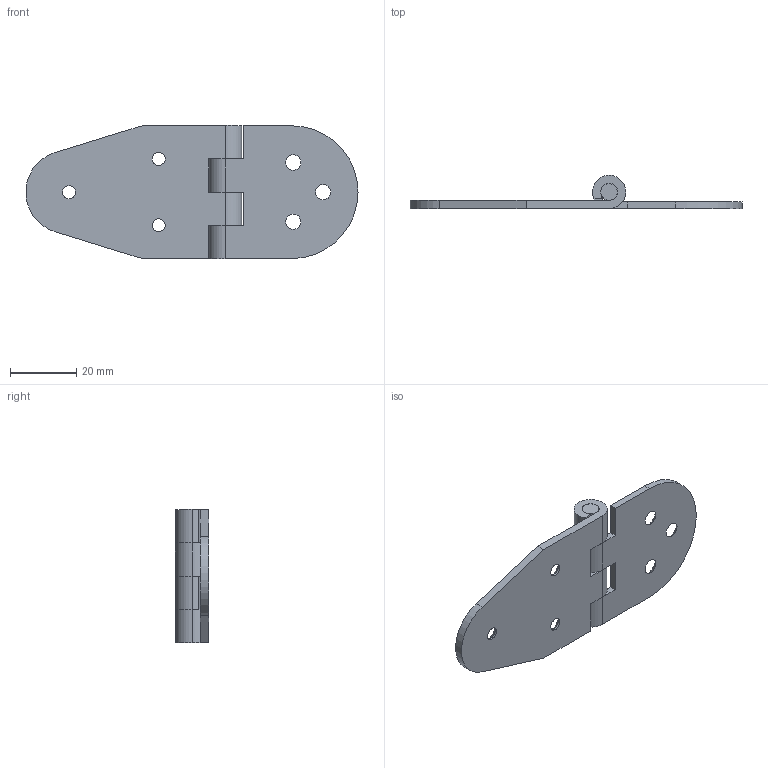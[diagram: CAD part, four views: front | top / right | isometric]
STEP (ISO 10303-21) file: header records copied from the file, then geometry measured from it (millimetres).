
FILE_DESCRIPTION (( 'STEP AP214' ), '1' );
FILE_NAME ('XG02-087-1.STEP', '2023-12-21T08:50:42', ( '' ), ( '' ), 'SwSTEP 2.0', 'SolidWorks 2020', '' );
FILE_SCHEMA (( 'AUTOMOTIVE_DESIGN' ));
Length unit declared in the file: millimetre
Products named in the file (4): XG02-087-1; 2; 3; 1
Assembly tree (3 placements, depth 2):
  XG02-087-1
    1
    2
    3
Bounding box: 99.96 x 10 x 40.1 mm (x, y, z)
Volume: 9628.8 mm3; surface area: 9832.2 mm2
Topology: 3 solids, 3 shells, 72 faces, 192 edges, 126 vertices
Faces by surface type: cylinder 34, plane 26, cone 12
Entity records: 2452 total; most frequent: DIRECTION 434, CARTESIAN_POINT 396, ORIENTED_EDGE 384, EDGE_CURVE 192, AXIS2_PLACEMENT_3D 164, VERTEX_POINT 126, LINE 106, VECTOR 106
